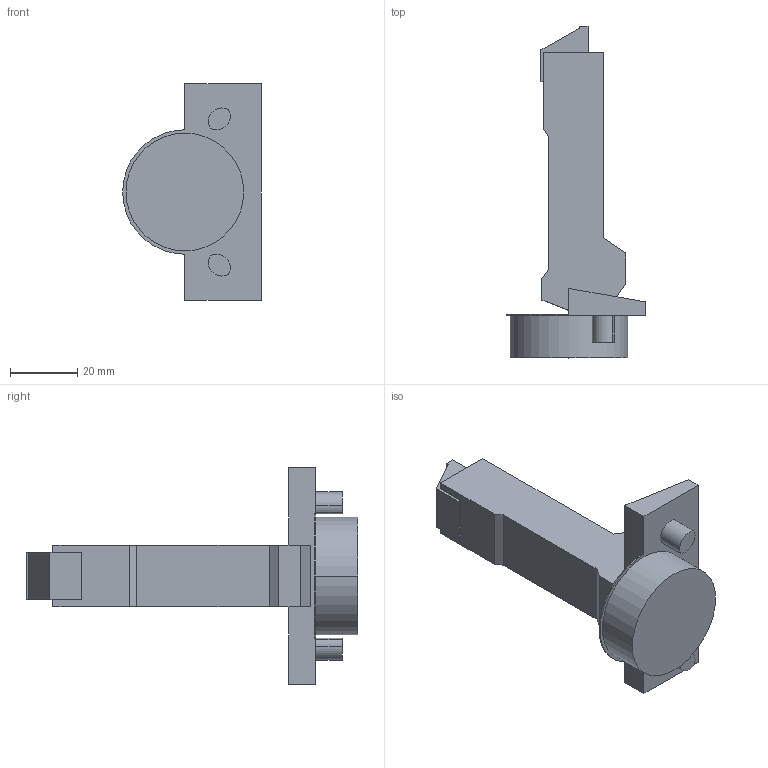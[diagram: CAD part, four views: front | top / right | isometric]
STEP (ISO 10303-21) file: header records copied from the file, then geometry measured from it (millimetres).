
FILE_DESCRIPTION (( 'STEP AP214' ), '1' );
FILE_NAME ('Scharnier TS Impresso 95° GB_BB, K95.step', '2018-10-02T12:12:24', ( '' ), ( '' ), 'SwSTEP 2.0', 'SolidWorks 2017', '' );
FILE_SCHEMA (( 'AUTOMOTIVE_DESIGN' ));
Length unit declared in the file: millimetre
Products named in the file (1): Scharnier TS Impresso 95° GB_BB, K95
Bounding box: 41.25 x 98.7 x 64.5 mm (x, y, z)
Volume: 46875.6 mm3; surface area: 12737.2 mm2
Topology: 1 solids, 1 shells, 52 faces, 132 edges, 88 vertices
Faces by surface type: plane 37, cylinder 15
Entity records: 1600 total; most frequent: CARTESIAN_POINT 273, DIRECTION 268, ORIENTED_EDGE 264, EDGE_CURVE 132, LINE 102, VECTOR 102, VERTEX_POINT 88, AXIS2_PLACEMENT_3D 83
